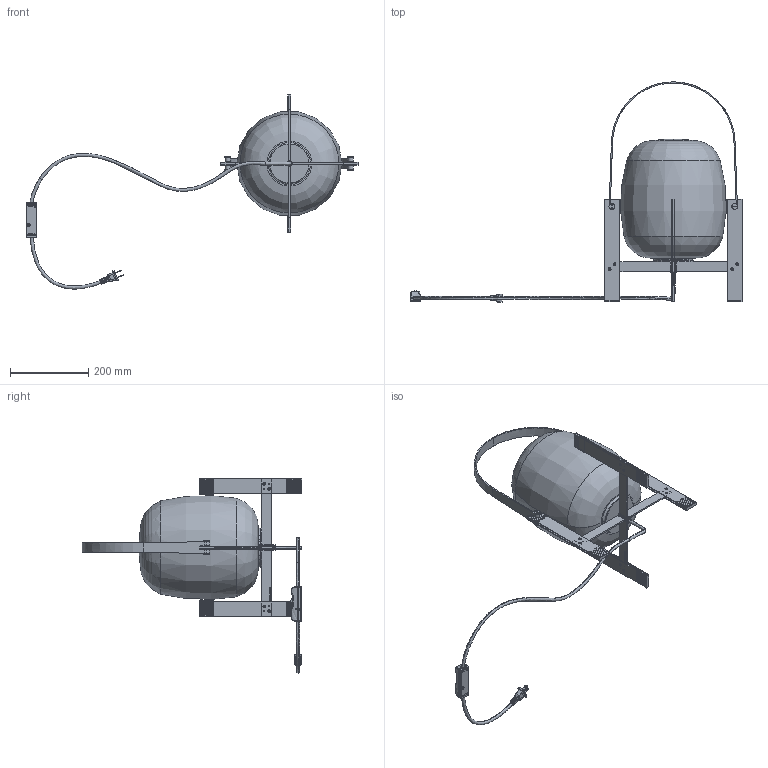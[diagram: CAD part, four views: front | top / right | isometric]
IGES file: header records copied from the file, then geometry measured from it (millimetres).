
Start section: SolidWorks IGES file using analytic representation for surfaces
Global section: file name: C:\Users\maria.romani\Desktop\CESTA METÁLICA\IGS\CESTA METÁLICA_Con Asa.IGS; native system: SolidWorks 2013; preprocessor: SolidWorks 2013; author: maria.romani; date: 150828.145818; units: millimetre
Bounding box: 849.16 x 562.57 x 496.43 mm (x, y, z)
Volume: 519097.5 mm3; surface area: 997342 mm2
Topology: 58 solids, 60 shells, 5218 faces, 24492 edges, 31909 vertices
Faces by surface type: plane 2741, revolution 2249, bspline 228
